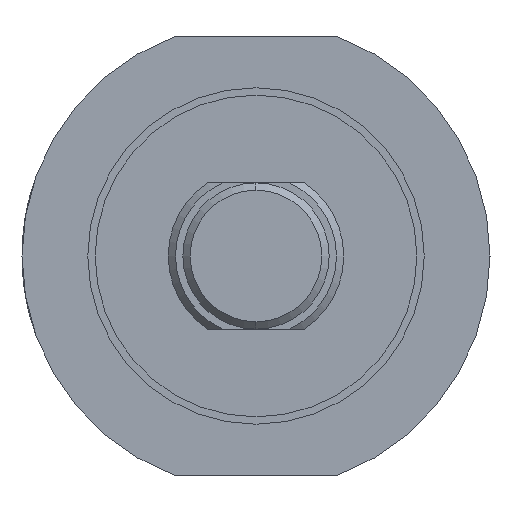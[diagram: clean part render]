
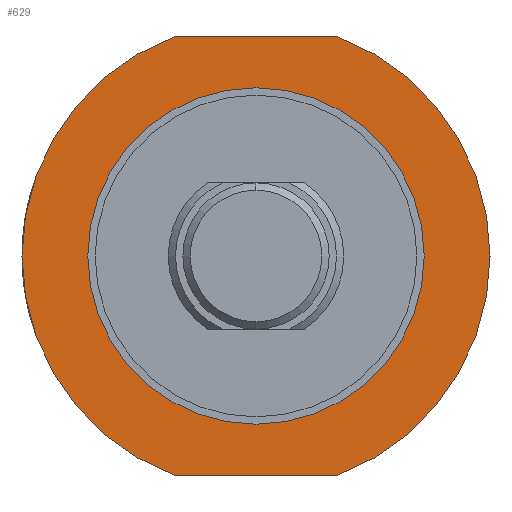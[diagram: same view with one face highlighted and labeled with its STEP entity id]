
A CAD part, left-side view. The second image highlights one B-rep face of the part: STEP entity #629.
In plain terms, the highlighted planar face has unit normal (-1, 0, 0).
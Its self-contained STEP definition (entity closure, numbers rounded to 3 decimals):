
#9 = VERTEX_POINT ( 'NONE', #1221 ) ;
#13 = EDGE_CURVE ( 'NONE', #1170, #1391, #375, .T. ) ;
#15 = DIRECTION ( 'NONE',  ( -1., 0., 0. ) ) ;
#47 = EDGE_CURVE ( 'NONE', #458, #684, #806, .T. ) ;
#80 = CIRCLE ( 'NONE', #873, 16. ) ;
#111 = EDGE_CURVE ( 'NONE', #1092, #9, #80, .T. ) ;
#128 = AXIS2_PLACEMENT_3D ( 'NONE', #1435, #1078, #1249 ) ;
#179 = EDGE_LOOP ( 'NONE', ( #1496, #1260 ) ) ;
#244 = CARTESIAN_POINT ( 'NONE',  ( 42., 0., 0. ) ) ;
#263 = LINE ( 'NONE', #1113, #774 ) ;
#375 = CIRCLE ( 'NONE', #1206, 11.5 ) ;
#394 = DIRECTION ( 'NONE',  ( -1., 0., 0. ) ) ;
#398 = DIRECTION ( 'NONE',  ( -1., 0., 0. ) ) ;
#399 = EDGE_CURVE ( 'NONE', #1092, #684, #263, .T. ) ;
#416 = EDGE_LOOP ( 'NONE', ( #1497, #1292, #1061, #724 ) ) ;
#431 = CARTESIAN_POINT ( 'NONE',  ( 42., 0., 0. ) ) ;
#458 = VERTEX_POINT ( 'NONE', #739 ) ;
#493 = EDGE_CURVE ( 'NONE', #1391, #1170, #1407, .T. ) ;
#610 = VECTOR ( 'NONE', #768, 1000. ) ;
#629 = ADVANCED_FACE ( 'NONE', ( #1246, #1004 ), #657, .F. ) ;
#657 = PLANE ( 'NONE',  #128 ) ;
#684 = VERTEX_POINT ( 'NONE', #1440 ) ;
#704 = DIRECTION ( 'NONE',  ( -1., 0., 0. ) ) ;
#717 = DIRECTION ( 'NONE',  ( 0., 1., 0. ) ) ;
#724 = ORIENTED_EDGE ( 'NONE', *, *, #911, .F. ) ;
#725 = CARTESIAN_POINT ( 'NONE',  ( 42., 0., 0. ) ) ;
#739 = CARTESIAN_POINT ( 'NONE',  ( 42., 5.568, 15. ) ) ;
#768 = DIRECTION ( 'NONE',  ( 0., -1., 0. ) ) ;
#774 = VECTOR ( 'NONE', #717, 1000. ) ;
#800 = LINE ( 'NONE', #845, #610 ) ;
#806 = CIRCLE ( 'NONE', #1320, 16. ) ;
#845 = CARTESIAN_POINT ( 'NONE',  ( 42., 11.874, 15. ) ) ;
#873 = AXIS2_PLACEMENT_3D ( 'NONE', #1127, #398, #881 ) ;
#881 = DIRECTION ( 'NONE',  ( 0., 0., 1. ) ) ;
#902 = DIRECTION ( 'NONE',  ( 0., 0., 1. ) ) ;
#911 = EDGE_CURVE ( 'NONE', #458, #9, #800, .T. ) ;
#960 = CARTESIAN_POINT ( 'NONE',  ( 42., 0., -11.5 ) ) ;
#1004 = FACE_OUTER_BOUND ( 'NONE', #416, .T. ) ;
#1054 = DIRECTION ( 'NONE',  ( 0., 0., 1. ) ) ;
#1061 = ORIENTED_EDGE ( 'NONE', *, *, #111, .T. ) ;
#1078 = DIRECTION ( 'NONE',  ( 1., 0., 0. ) ) ;
#1092 = VERTEX_POINT ( 'NONE', #1379 ) ;
#1113 = CARTESIAN_POINT ( 'NONE',  ( 42., 11.874, -15. ) ) ;
#1119 = AXIS2_PLACEMENT_3D ( 'NONE', #431, #704, #1415 ) ;
#1127 = CARTESIAN_POINT ( 'NONE',  ( 42., 0., 0. ) ) ;
#1170 = VERTEX_POINT ( 'NONE', #960 ) ;
#1206 = AXIS2_PLACEMENT_3D ( 'NONE', #725, #15, #902 ) ;
#1221 = CARTESIAN_POINT ( 'NONE',  ( 42., -5.568, 15. ) ) ;
#1246 = FACE_BOUND ( 'NONE', #179, .T. ) ;
#1249 = DIRECTION ( 'NONE',  ( 0., 0., -1. ) ) ;
#1260 = ORIENTED_EDGE ( 'NONE', *, *, #13, .F. ) ;
#1292 = ORIENTED_EDGE ( 'NONE', *, *, #399, .F. ) ;
#1297 = CARTESIAN_POINT ( 'NONE',  ( 42., 0., 11.5 ) ) ;
#1320 = AXIS2_PLACEMENT_3D ( 'NONE', #244, #394, #1054 ) ;
#1379 = CARTESIAN_POINT ( 'NONE',  ( 42., -5.568, -15. ) ) ;
#1391 = VERTEX_POINT ( 'NONE', #1297 ) ;
#1407 = CIRCLE ( 'NONE', #1119, 11.5 ) ;
#1415 = DIRECTION ( 'NONE',  ( 0., 0., 1. ) ) ;
#1435 = CARTESIAN_POINT ( 'NONE',  ( 42., 0., -16. ) ) ;
#1440 = CARTESIAN_POINT ( 'NONE',  ( 42., 5.568, -15. ) ) ;
#1496 = ORIENTED_EDGE ( 'NONE', *, *, #493, .F. ) ;
#1497 = ORIENTED_EDGE ( 'NONE', *, *, #47, .T. ) ;
